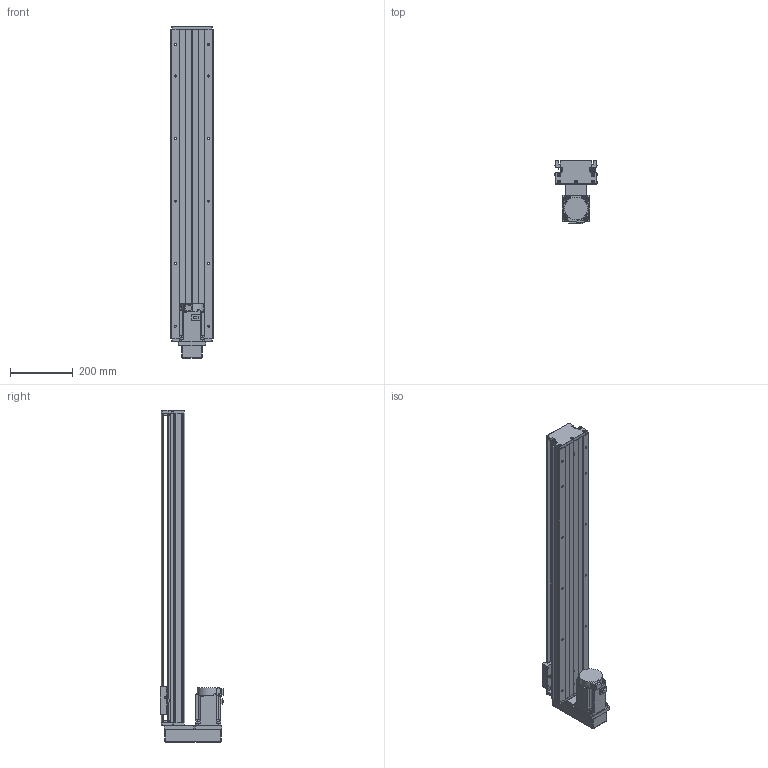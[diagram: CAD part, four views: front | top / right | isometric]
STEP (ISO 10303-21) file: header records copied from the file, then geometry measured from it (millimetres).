
FILE_DESCRIPTION (( 'STEP AP203' ), '1' );
FILE_NAME ('KTH130-850-BM-M75-C4.step', '2023-06-30T04:38:56', ( '微软用户' ), ( '微软中国' ), 'SwSTEP 2.0', 'SolidWorks 2020', '' );
FILE_SCHEMA (( 'CONFIG_CONTROL_DESIGN' ));
Length unit declared in the file: millimetre
Products named in the file (18): GB1155-6X6; GBT77-2000 M3×3; GBT70.1 M5℅16; す晦芛蹟隊 M3℅5; GBT 70.2-M3¡Á5_M3¡Á6; GBT 70.3-M3℅8; GTH14-001_850; CTHA60-017; hg-kn73j_-s100; KTH130-002_KTH130-002; EE_SX911P_R; CTHA86-015-3_CTHA86-015-4; KTH130-004; CTHA60-016; CTHA86-035; KTH130-005; GBT 70.1-M3℅5; KTH130-850-BM-M75-C4
Assembly tree (49 placements, depth 2):
  KTH130-850-BM-M75-C4
    GTH14-001_850
    KTH130-002_KTH130-002
    KTH130-004
    KTH130-005
    GB1155-6X6  x2
    GBT70.1 M5℅16  x10
    GBT 70.2-M3¡Á5_M3¡Á6  x4
    CTHA60-017  x3
    EE_SX911P_R  x3
    CTHA60-016  x2
    GBT 70.1-M3℅5  x6
    GBT77-2000 M3×3  x6
    す晦芛蹟隊 M3℅5  x2
    GBT 70.3-M3℅8  x4
    hg-kn73j_-s100
    CTHA86-015-3_CTHA86-015-4
    CTHA86-035
Bounding box: 135 x 202.8 x 1062 mm (x, y, z)
Volume: 6743396 mm3; surface area: 969027.8 mm2
Topology: 52 solids, 52 shells, 2202 faces, 5340 edges, 3343 vertices
Faces by surface type: plane 1210, cylinder 638, cone 238, torus 100, sphere 16
Entity records: 40253 total; most frequent: CARTESIAN_POINT 6772, DIRECTION 6637, ORIENTED_EDGE 6184, EDGE_CURVE 3092, AXIS2_PLACEMENT_3D 2326, LINE 1985, VECTOR 1985, VERTEX_POINT 1977
